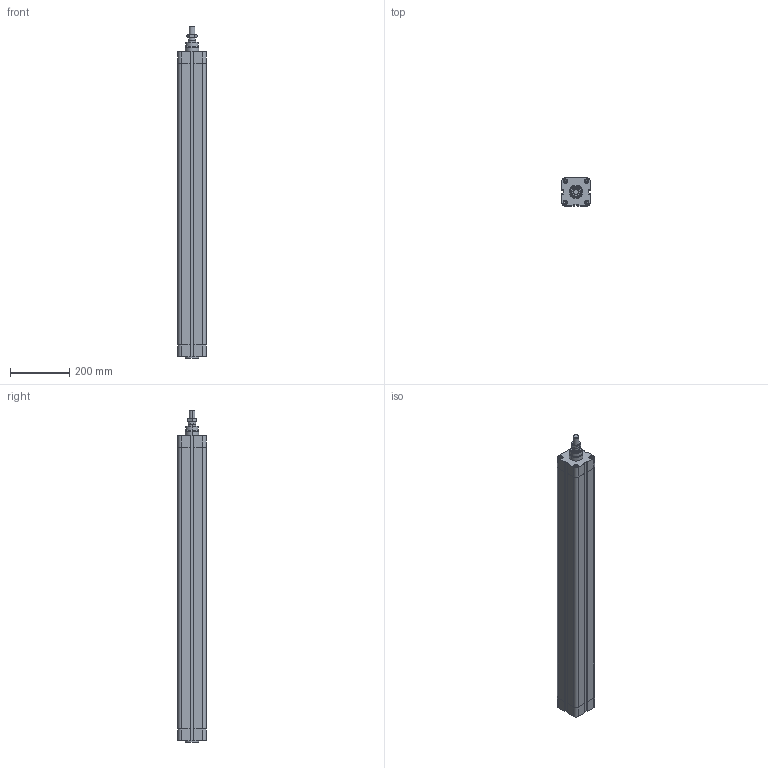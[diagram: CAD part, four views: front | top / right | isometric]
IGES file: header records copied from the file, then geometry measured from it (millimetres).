
Global section: file name: No Iges File Name specified; native system: AutoDesk Inventor R6.1; preprocessor: AutoDesk Inventor Iges Exporter R6.1; author: No Author specified; organization: No Organization specified; date: 20040107.171546; units: millimetre
Bounding box: 95.5 x 95.5 x 1118 mm (x, y, z)
Volume: 9069973.8 mm3; surface area: 610248.7 mm2
Topology: 3 solids, 3 shells, 244 faces, 570 edges, 356 vertices
Faces by surface type: plane 83, bspline 67, cylinder 34, revolution 34, cone 24, torus 2
